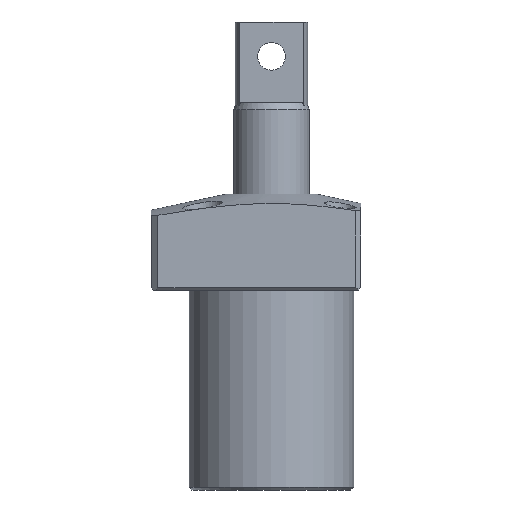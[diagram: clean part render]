
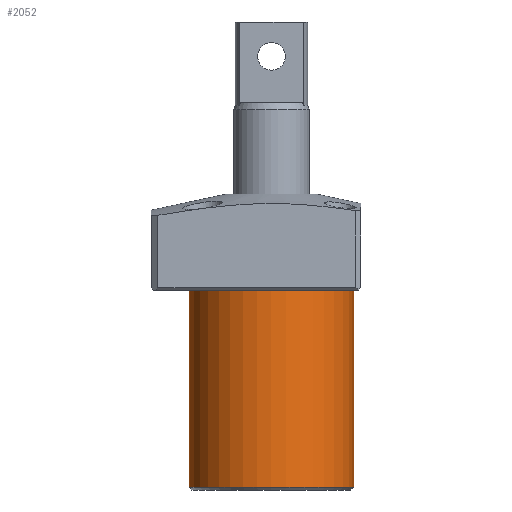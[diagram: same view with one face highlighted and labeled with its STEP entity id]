
A CAD part, front view. The second image highlights one B-rep face of the part: STEP entity #2052.
In plain terms, the highlighted cylindrical face has radius 23.9 mm (diameter 47.8 mm), a partial arc.
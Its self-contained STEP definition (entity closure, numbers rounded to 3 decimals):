
#25 = CIRCLE ( 'NONE', #2369, 23.9 ) ;
#44 = VECTOR ( 'NONE', #2148, 1000. ) ;
#60 = DIRECTION ( 'NONE',  ( 1., 0., 0. ) ) ;
#150 = CARTESIAN_POINT ( 'NONE',  ( -23.9, 0., 58. ) ) ;
#170 = EDGE_CURVE ( 'NONE', #1055, #1239, #2558, .T. ) ;
#241 = VERTEX_POINT ( 'NONE', #2104 ) ;
#310 = EDGE_CURVE ( 'NONE', #748, #1239, #25, .T. ) ;
#352 = LINE ( 'NONE', #150, #44 ) ;
#371 = DIRECTION ( 'NONE',  ( 1., 0., 0. ) ) ;
#476 = EDGE_LOOP ( 'NONE', ( #2651, #1868, #2519, #1086 ) ) ;
#622 = CYLINDRICAL_SURFACE ( 'NONE', #2639, 23.9 ) ;
#729 = CARTESIAN_POINT ( 'NONE',  ( 23.9, 0., 58. ) ) ;
#748 = VERTEX_POINT ( 'NONE', #2527 ) ;
#920 = CARTESIAN_POINT ( 'NONE',  ( 0., 0., 0.8 ) ) ;
#1055 = VERTEX_POINT ( 'NONE', #2264 ) ;
#1086 = ORIENTED_EDGE ( 'NONE', *, *, #310, .T. ) ;
#1176 = DIRECTION ( 'NONE',  ( 0., 0., -1. ) ) ;
#1182 = DIRECTION ( 'NONE',  ( 0., 0., 1. ) ) ;
#1220 = DIRECTION ( 'NONE',  ( -1., 0., 0. ) ) ;
#1239 = VERTEX_POINT ( 'NONE', #1951 ) ;
#1357 = CIRCLE ( 'NONE', #1733, 23.9 ) ;
#1443 = CARTESIAN_POINT ( 'NONE',  ( 0., 0., 58. ) ) ;
#1733 = AXIS2_PLACEMENT_3D ( 'NONE', #2416, #1182, #371 ) ;
#1868 = ORIENTED_EDGE ( 'NONE', *, *, #1926, .F. ) ;
#1926 = EDGE_CURVE ( 'NONE', #241, #1055, #1357, .T. ) ;
#1951 = CARTESIAN_POINT ( 'NONE',  ( 23.9, 0., 0.8 ) ) ;
#2034 = FACE_OUTER_BOUND ( 'NONE', #476, .T. ) ;
#2052 = ADVANCED_FACE ( 'NONE', ( #2034 ), #622, .T. ) ;
#2104 = CARTESIAN_POINT ( 'NONE',  ( -23.9, 0., 58. ) ) ;
#2139 = DIRECTION ( 'NONE',  ( 0., 0., 1. ) ) ;
#2148 = DIRECTION ( 'NONE',  ( 0., 0., -1. ) ) ;
#2256 = DIRECTION ( 'NONE',  ( 0., 0., -1. ) ) ;
#2264 = CARTESIAN_POINT ( 'NONE',  ( 23.9, 0., 58. ) ) ;
#2369 = AXIS2_PLACEMENT_3D ( 'NONE', #920, #2139, #60 ) ;
#2412 = VECTOR ( 'NONE', #1176, 1000. ) ;
#2416 = CARTESIAN_POINT ( 'NONE',  ( 0., 0., 58. ) ) ;
#2423 = EDGE_CURVE ( 'NONE', #241, #748, #352, .T. ) ;
#2519 = ORIENTED_EDGE ( 'NONE', *, *, #2423, .T. ) ;
#2527 = CARTESIAN_POINT ( 'NONE',  ( -23.9, 0., 0.8 ) ) ;
#2558 = LINE ( 'NONE', #729, #2412 ) ;
#2639 = AXIS2_PLACEMENT_3D ( 'NONE', #1443, #2256, #1220 ) ;
#2651 = ORIENTED_EDGE ( 'NONE', *, *, #170, .F. ) ;
